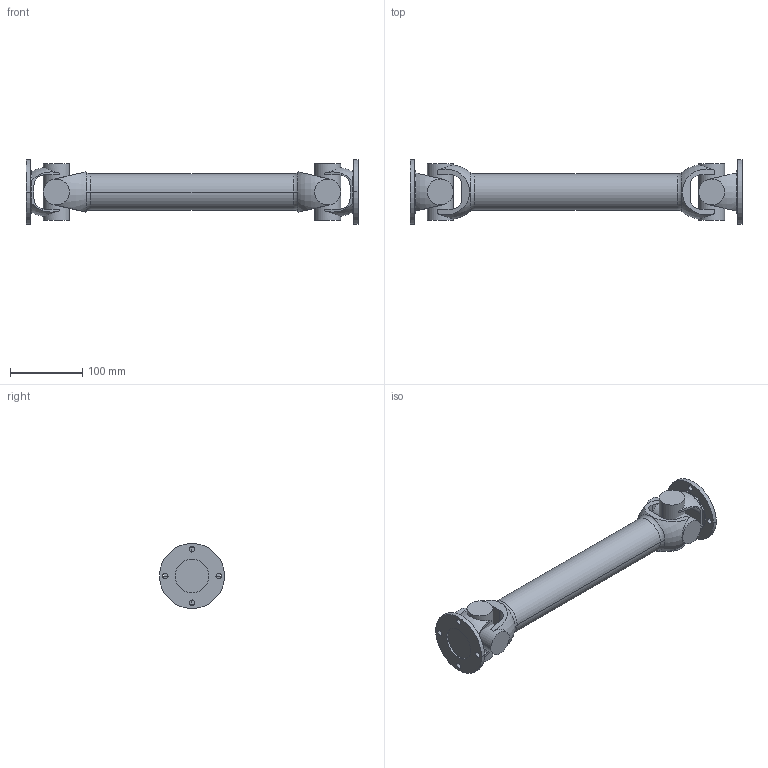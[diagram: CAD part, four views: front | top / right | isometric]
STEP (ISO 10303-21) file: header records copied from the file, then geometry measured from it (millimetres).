
FILE_DESCRIPTION(('Creo Elements/Direct Modeling STEP Export'),'2;1');
FILE_NAME('Gelenkwelle_0_109_100_X_40_S-460.stp','2014-10-17T10:32:03',(''),(''),'PTC Creo Elements/Direct Modeling STEP processor for AP214 (Solid Model)','PTC Creo Elements/Direct Modeling 19.0 09-May-2014 (C) Parametric Technology GmbH','');
FILE_SCHEMA(('AUTOMOTIVE_DESIGN { 1 0 10303 214 1 1 1 1 }'));
Length unit declared in the file: millimetre
Products named in the file (3): Welle; Flansch_2; Gelenkwelle_0_109_100_X_40_S-460
Assembly tree (3 placements, depth 2):
  Gelenkwelle_0_109_100_X_40_S-460
    Flansch_2  x2
    Welle
Bounding box: 460 x 90 x 90 mm (x, y, z)
Volume: 1120415.2 mm3; surface area: 141221.6 mm2
Topology: 3 solids, 3 shells, 116 faces, 358 edges, 244 vertices
Faces by surface type: plane 58, cylinder 46, torus 12
Entity records: 7766 total; most frequent: CARTESIAN_POINT 5753, ORIENTED_EDGE 484, DIRECTION 338, EDGE_CURVE 242, VERTEX_POINT 166, AXIS2_PLACEMENT_3D 137, EDGE_LOOP 86, FACE_OUTER_BOUND 76
